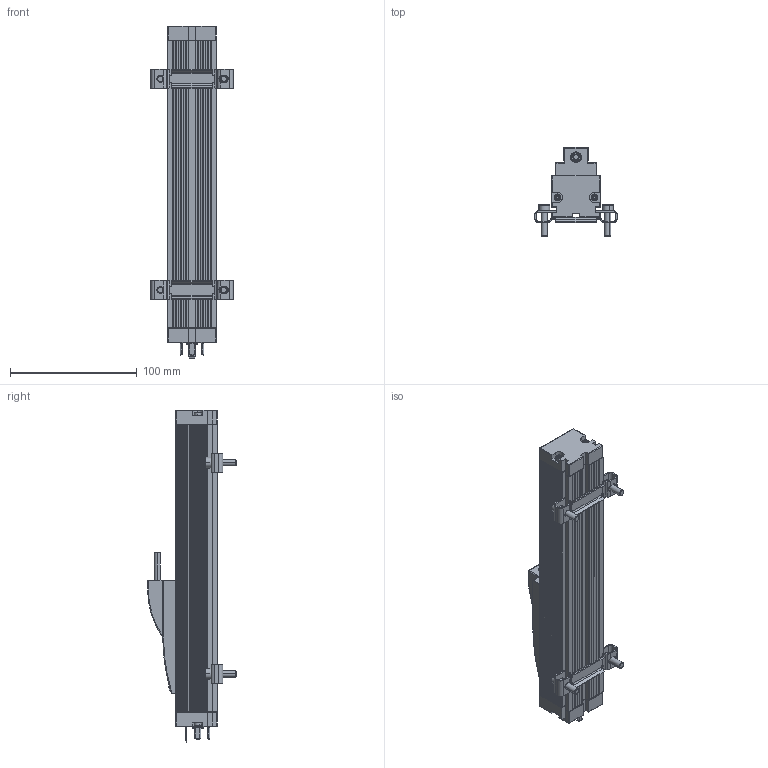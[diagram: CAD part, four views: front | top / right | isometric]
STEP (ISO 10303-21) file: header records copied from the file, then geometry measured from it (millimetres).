
FILE_DESCRIPTION (( 'STEP AP214' ), '1' );
FILE_NAME ('0100.STEP', '2008-11-27T14:29:00', ( 'novotechnik' ), ( 'novotechnik' ), 'SwSTEP 2.0', 'SolidWorks 2008', '' );
FILE_SCHEMA (( 'AUTOMOTIVE_DESIGN' ));
Length unit declared in the file: millimetre
Products named in the file (5): Housing_0100_Standard; Klammer_Endseite_0100_Standard; Klammer_Anschlusseite_0100_Standard; Gleitschlitten_Standard; 0100
Assembly tree (4 placements, depth 2):
  0100
    Klammer_Anschlusseite_0100_Standard
    Klammer_Endseite_0100_Standard
    Housing_0100_Standard
    Gleitschlitten_Standard
Bounding box: 65 x 70.2 x 262 mm (x, y, z)
Volume: 321293.5 mm3; surface area: 91023.3 mm2
Topology: 23 solids, 23 shells, 1179 faces, 3152 edges, 2027 vertices
Faces by surface type: plane 572, cylinder 421, bspline 94, cone 56, torus 22, sphere 14
Entity records: 54437 total; most frequent: CARTESIAN_POINT 12049, ORIENTED_EDGE 6256, DIRECTION 5810, EDGE_CURVE 3128, VERTEX_POINT 2027, AXIS2_PLACEMENT_3D 1953, VECTOR 1904, LINE 1904
